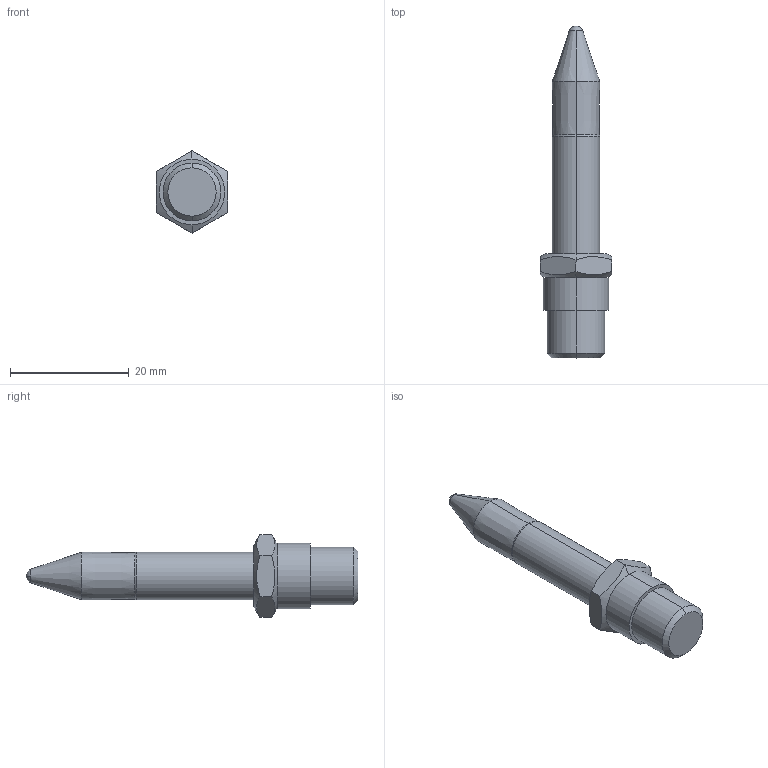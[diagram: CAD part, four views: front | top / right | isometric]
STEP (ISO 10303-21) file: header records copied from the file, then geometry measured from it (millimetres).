
FILE_DESCRIPTION (( 'STEP AP203' ), '1' );
FILE_NAME ('Silvent 511.STEP', '2003-09-23T11:36:39', ( 'Ulf Persson' ), ( '' ), 'SwSTEP 2.0', 'SolidWorks 2003099', '' );
FILE_SCHEMA (( 'CONFIG_CONTROL_DESIGN' ));
Length unit declared in the file: millimetre
Products named in the file (1): Silvent 511
Bounding box: 12 x 55.8 x 13.86 mm (x, y, z)
Volume: 3223.9 mm3; surface area: 1641.4 mm2
Topology: 1 solids, 1 shells, 30 faces, 64 edges, 39 vertices
Faces by surface type: cone 10, plane 10, cylinder 6, torus 2, sphere 2
Entity records: 971 total; most frequent: CARTESIAN_POINT 242, DIRECTION 144, ORIENTED_EDGE 128, EDGE_CURVE 64, AXIS2_PLACEMENT_3D 61, VERTEX_POINT 39, EDGE_LOOP 33, FACE_OUTER_BOUND 30
